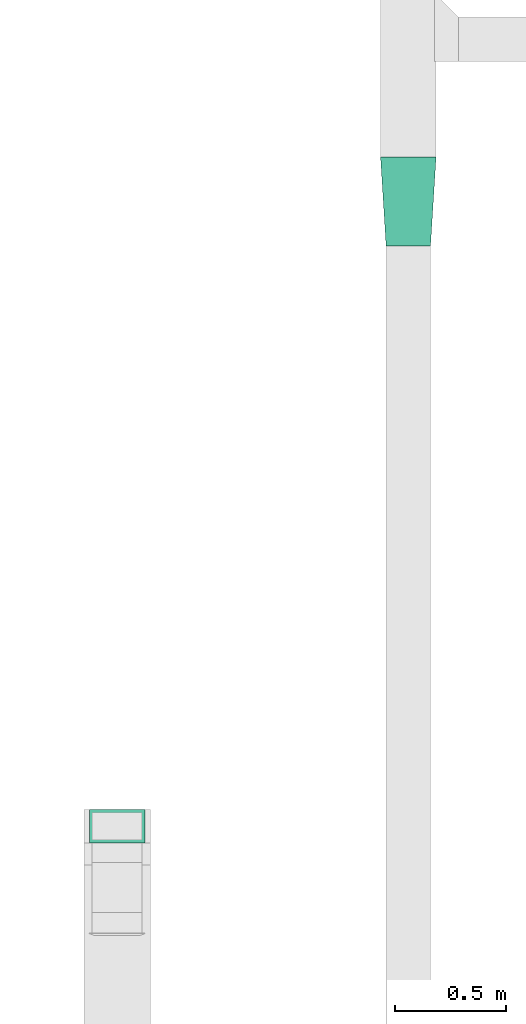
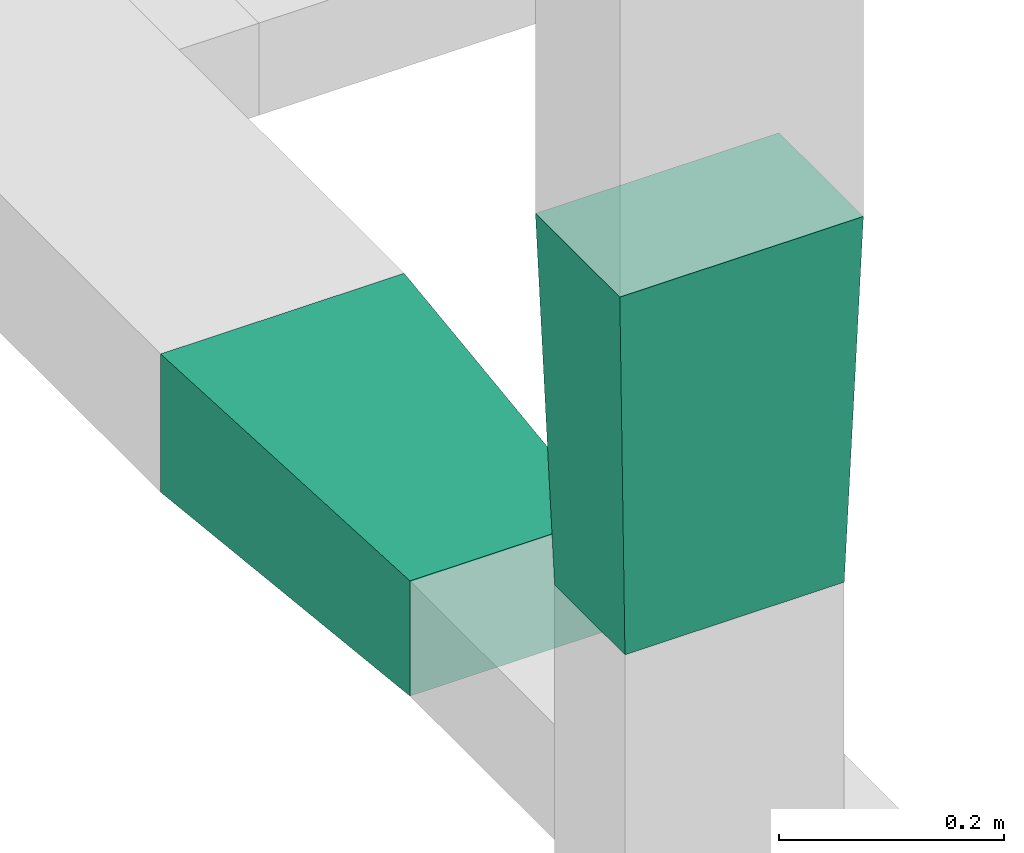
# One storey, part 16 of 22: 2 flow fittings.
"""IFC2X3 building model written with IfcOpenShell, lengths in millimetres."""

import ifcopenshell
import ifcopenshell.guid

model = None  # the IFC model being written
_history = None  # IfcOwnerHistory: only IFC2X3 demands one
_inside = {}  # id of a spatial element -> (the spatial element, [elements in it])
_under = {}  # id of a project, library or spatial element -> (it, [spatial elements below it])
_declared = {}  # id of a project -> (the project, [libraries it declares])
_typed = {}  # id of a type object -> (the type object, [elements of that type])
_made_of = {}  # id of a material, layer set ... -> (it, [elements and type objects made of it])


def new_model(schema):
    """Start an empty IFC model of exactly this schema.

    Asked for "IFC4X3", IfcOpenShell would pick the latest addendum, in which some entities
    have other attributes; the version numbers below select the first issue.
    IFC2X3 requires an IfcOwnerHistory on every rooted entity: one is made here for all.
    """
    global model, _history
    if schema == "IFC4X3":
        model = ifcopenshell.file(schema_version=(4, 3, 0, 0))
    else:
        model = ifcopenshell.file(schema=schema)
    _inside.clear()
    _under.clear()
    _declared.clear()
    _typed.clear()
    _made_of.clear()
    _history = None
    if model.schema == "IFC2X3":
        org = make("IfcOrganization", Name="unknown")
        user = make(
            "IfcPersonAndOrganization",
            ThePerson=make("IfcPerson", FamilyName="unknown"),
            TheOrganization=org,
        )
        app = make(
            "IfcApplication",
            ApplicationDeveloper=org,
            Version="unknown",
            ApplicationFullName="unknown",
            ApplicationIdentifier="unknown",
        )
        _history = make(
            "IfcOwnerHistory",
            OwningUser=user,
            OwningApplication=app,
            ChangeAction="ADDED",
            CreationDate=0,
        )
    return model


def make(cls, **values):
    """One entity of the class cls with the attributes given. An attribute that is None is left unset."""
    return model.create_entity(
        cls, **{name: value for name, value in values.items() if value is not None}
    )


def entity(cls, *values):
    """Any entity or typed value of the class cls, its attributes in the order of the schema. None: left unset."""
    e = model.create_entity(cls)
    for i, value in enumerate(values):
        if value is not None:
            e[i] = value
    return e


def rooted(cls, **values):
    """An entity with a GlobalId (a new one), such as an element, a storey or a relation."""
    return make(cls, GlobalId=ifcopenshell.guid.new(), OwnerHistory=_history, **values)


def si_unit(unit_type, name, prefix=None):
    """IfcSIUnit, for example si_unit("LENGTHUNIT", "METRE", prefix="MILLI")."""
    return make("IfcSIUnit", UnitType=unit_type, Prefix=prefix, Name=name)


def converted_unit(unit_type, name, factor, base, dimensions=None, offset=None):
    """IfcConversionBasedUnit, such as the inch: factor (a typed value) times the base unit."""
    return make(
        "IfcConversionBasedUnit"
        if offset is None
        else "IfcConversionBasedUnitWithOffset",
        ConversionOffset=offset,
        Dimensions=None
        if dimensions is None
        else entity("IfcDimensionalExponents", *dimensions),
        UnitType=unit_type,
        Name=name,
        ConversionFactor=make(
            "IfcMeasureWithUnit", ValueComponent=factor, UnitComponent=base
        ),
    )


def derived_unit(unit_type, elements):
    """IfcDerivedUnit: a product of units, each with its exponent."""
    return make(
        "IfcDerivedUnit",
        Elements=[
            make("IfcDerivedUnitElement", Unit=unit, Exponent=power)
            for unit, power in elements
        ],
        UnitType=unit_type,
    )


def assignment(units):
    """IfcUnitAssignment: the units of a project."""
    return None if units is None else make("IfcUnitAssignment", Units=units)


def point(xyz):
    """IfcCartesianPoint."""
    return None if xyz is None else make("IfcCartesianPoint", Coordinates=xyz)


def direction(xyz):
    """IfcDirection."""
    return None if xyz is None else make("IfcDirection", DirectionRatios=xyz)


def frame(location, z_axis=None, x_axis=None):
    """IfcAxis2Placement3D, a coordinate frame: its origin and axes. An axis left out is left unset."""
    return make(
        "IfcAxis2Placement3D",
        Location=point(location),
        Axis=direction(z_axis),
        RefDirection=direction(x_axis),
    )


def origin():
    """The frame at (0, 0, 0) with its axes left unset."""
    return frame((0.0, 0.0, 0.0))


def place(relative_to, where):
    """IfcLocalPlacement: puts the frame where relative to a parent placement (None: the world)."""
    return make(
        "IfcLocalPlacement", PlacementRelTo=relative_to, RelativePlacement=where
    )


def context(
    kind, dimensions, precision=None, world=None, true_north=None, identifier=None
):
    """IfcGeometricRepresentationContext, for example the 3D "Model" context."""
    return make(
        "IfcGeometricRepresentationContext",
        ContextIdentifier=identifier,
        ContextType=kind,
        CoordinateSpaceDimension=dimensions,
        Precision=precision,
        WorldCoordinateSystem=world,
        TrueNorth=true_north,
    )


def subcontext(parent, identifier, kind, view, scale=None):
    """IfcGeometricRepresentationSubContext, for example "Body" below "Model"."""
    return make(
        "IfcGeometricRepresentationSubContext",
        ContextIdentifier=identifier,
        ContextType=kind,
        ParentContext=parent,
        TargetScale=scale,
        TargetView=view,
    )


def project(units=None, contexts=None):
    """IfcProject with its units and contexts."""
    return rooted(
        "IfcProject",
        Name="project",
        RepresentationContexts=contexts,
        UnitsInContext=assignment(units),
    )


def spatial(cls, under=None, at=None, **own):
    """A site, building, storey or space (cls), placed at a placement, below another one or the project."""
    s = rooted(cls, ObjectPlacement=at, **own)
    if under is not None:
        _under.setdefault(under.id(), (under, []))[1].append(s)
    return s


def faces_of(points, faces, orient=None, outer=None):
    """IfcFace entities. A face is a list of loops; a loop is a list of indices into points, from 0.

    orient and outer hold one flag for each loop. By default every Orientation is true, the
    first loop of a face is its IfcFaceOuterBound and the others are IfcFaceBound.
    """
    made = []
    for i, loops in enumerate(faces):
        bounds = []
        for j, loop in enumerate(loops):
            is_outer = j == 0 if outer is None else outer[i][j]
            bounds.append(
                make(
                    "IfcFaceOuterBound" if is_outer else "IfcFaceBound",
                    Bound=make("IfcPolyLoop", Polygon=[points[k] for k in loop]),
                    Orientation=True if orient is None else orient[i][j],
                )
            )
        made.append(make("IfcFace", Bounds=bounds))
    return made


def faceted_brep(points, faces, orient=None, outer=None, voids=None):
    """IfcFacetedBrep: a solid bounded by flat faces; with voids (closed shells), ...WithVoids."""
    shared = [point(p) for p in points]
    hull = make("IfcClosedShell", CfsFaces=faces_of(shared, faces, orient, outer))
    if voids is None:
        return make("IfcFacetedBrep", Outer=hull)
    return make(
        "IfcFacetedBrepWithVoids",
        Outer=hull,
        Voids=[
            make(cls, CfsFaces=faces_of(shared, fs, o, b)) for cls, fs, o, b in voids
        ],
    )


def shape(context_of_items, identifier, shape_type, items):
    """IfcShapeRepresentation: the items that make up one representation, for example the "Body"."""
    return make(
        "IfcShapeRepresentation",
        ContextOfItems=context_of_items,
        RepresentationIdentifier=identifier,
        RepresentationType=shape_type,
        Items=items,
    )


def source(mapping_origin, context_of_items, identifier, shape_type, items):
    """IfcRepresentationMap: a shape defined once, which mapped items show again and again."""
    return make(
        "IfcRepresentationMap",
        MappingOrigin=mapping_origin,
        MappedRepresentation=shape(context_of_items, identifier, shape_type, items),
    )


def transform(
    local_origin,
    x_axis=None,
    y_axis=None,
    z_axis=None,
    scale=None,
    scale2=None,
    scale3=None,
    uniform=True,
):
    """IfcCartesianTransformationOperator3D, or its non-uniform kind. x_axis, y_axis, z_axis: its Axis1, 2, 3."""
    if uniform:
        return make(
            "IfcCartesianTransformationOperator3D",
            Axis1=direction(x_axis),
            Axis2=direction(y_axis),
            LocalOrigin=point(local_origin),
            Scale=scale,
            Axis3=direction(z_axis),
        )
    return make(
        "IfcCartesianTransformationOperator3DnonUniform",
        Axis1=direction(x_axis),
        Axis2=direction(y_axis),
        LocalOrigin=point(local_origin),
        Scale=scale,
        Axis3=direction(z_axis),
        Scale2=scale2,
        Scale3=scale3,
    )


def mapped(mapping_source, mapping_target):
    """IfcMappedItem: shows the shape of a source again, moved by a transform."""
    return make(
        "IfcMappedItem", MappingSource=mapping_source, MappingTarget=mapping_target
    )


def material(Name=None, Category=None):
    """IfcMaterial."""
    return make("IfcMaterial", Name=Name, Category=Category)


def made_of(thing, what):
    """Note that an element or type object is made of a material, layer set ...; save() writes the relation."""
    if what is not None:
        _made_of.setdefault(what.id(), (what, []))[1].append(thing)
    return thing


def type_object(cls, material=None, **own):
    """A type object (cls), such as IfcWallType, which elements share."""
    return made_of(rooted(cls, **own), material)


def type_shapes(of_type, sources):
    """Give a type object the sources (RepresentationMaps) that its elements show as mapped items."""
    of_type.RepresentationMaps = sources


def element(
    cls,
    number,
    at=None,
    inside=None,
    cuts=None,
    type_object=None,
    material=None,
    context=None,
    identifier="Body",
    shape_type=None,
    held_by="IfcProductDefinitionShape",
    body=None,
    shapes=None,
    **own,
):
    """One element of the class cls, such as IfcWall. Its Tag is "e" and its number.

    at: its placement. inside: the storey or other place that contains it. cuts: it is an
    opening in that element (IfcRelVoidsElement). A single representation is given by context,
    identifier, shape_type and body (its items); several are given by shapes. held_by: the class
    of the entity that holds the representations. save() writes the other relations.
    """
    e = rooted(cls, Tag="e%d" % number, ObjectPlacement=at, **own)
    if body is not None:
        shapes = [shape(context, identifier, shape_type, body)]
    if shapes is not None:
        e.Representation = make(held_by, Representations=shapes)
    if inside is not None:
        _inside.setdefault(inside.id(), (inside, []))[1].append(e)
    if cuts is not None:
        rooted(
            "IfcRelVoidsElement", RelatingBuildingElement=cuts, RelatedOpeningElement=e
        )
    if type_object is not None:
        _typed.setdefault(type_object.id(), (type_object, []))[1].append(e)
    return made_of(e, material)


def aggregate(whole, parts):
    """IfcRelAggregates: a whole, such as a stair, and the parts it consists of."""
    return rooted("IfcRelAggregates", RelatingObject=whole, RelatedObjects=parts)


def save(model, path):
    """Write the relations noted so far, then the file.

    IfcRelAggregates (storeys below a building ...), IfcRelContainedInSpatialStructure (elements
    in a storey), IfcRelDefinesByType, IfcRelAssociatesMaterial and IfcRelDeclares: one each for
    every whole, place, type object, material and project.
    """
    for whole, parts in _under.values():
        aggregate(whole, parts)
    for where, things in _inside.values():
        rooted(
            "IfcRelContainedInSpatialStructure",
            RelatedElements=things,
            RelatingStructure=where,
        )
    for kind, things in _typed.values():
        rooted("IfcRelDefinesByType", RelatedObjects=things, RelatingType=kind)
    for what, things in _made_of.values():
        rooted("IfcRelAssociatesMaterial", RelatedObjects=things, RelatingMaterial=what)
    for by, libraries in _declared.values():
        rooted("IfcRelDeclares", RelatingContext=by, RelatedDefinitions=libraries)
    model.write(path)


model = new_model("IFC2X3")

# Units and contexts
model_context = context("Model", 3, precision=0.01, world=origin(), true_north=direction((6.123233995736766e-17, 1.0)))
body_context = subcontext(model_context, "Body", "Model", "MODEL_VIEW")
ifc_project = project(units=[si_unit("LENGTHUNIT", "METRE", prefix="MILLI"), converted_unit("PLANEANGLEUNIT", "DEGREE", entity("IfcPlaneAngleMeasure", 0.017453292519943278), si_unit("PLANEANGLEUNIT", "RADIAN"), dimensions=[0, 0, 0, 0, 0, 0, 0]), si_unit("AREAUNIT", "SQUARE_METRE"), derived_unit("THERMALTRANSMITTANCEUNIT", [(si_unit("MASSUNIT", "GRAM", prefix="KILO"), 1), (si_unit("THERMODYNAMICTEMPERATUREUNIT", "KELVIN"), -1), (si_unit("TIMEUNIT", "SECOND"), -3)])], contexts=[model_context])

# Site, building, storey
site_placement = place(None, origin())
site = spatial("IfcSite", under=ifc_project, at=site_placement, Name="Default", CompositionType="ELEMENT")
building_placement = place(site_placement, origin())
building = spatial("IfcBuilding", under=site, at=building_placement, Name="Praça Pedro II, 1301 - Centro (Sul), Teresina - PI, 64001-100", CompositionType="ELEMENT")
storey_placement = place(building_placement, frame((0.0, 0.0, 320.0)))
storey = spatial("IfcBuildingStorey", under=building, at=storey_placement, Name="TÉRREO +0.32m", CompositionType="ELEMENT", Elevation=319.99999999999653)

# Flow fittings
ifc_material = material(Name="<Unnamed>")
duct_fitting_type_1 = type_object("IfcDuctFittingType", Name="M_Rectangular Transition - L:400 mm (L)", PredefinedType="NOTDEFINED", material=ifc_material)
shared_shape_1 = source(origin(), body_context, "Body", "Brep", [
    faceted_brep([(400.0, -112.50000000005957, 62.49999999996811), (400.0, -112.50000000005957, -62.500000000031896), (400.0, 112.49999999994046, -62.500000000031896), (400.0, 112.49999999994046, 62.49999999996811), (0.0, -125.0, 75.0), (0.0, 125.0, 75.0), (0.0, 125.0, -75.0), (0.0, -125.0, -75.0)], [[[0, 1, 2, 3]], [[4, 5, 6, 7]], [[4, 7, 1, 0]], [[7, 6, 2, 1]], [[6, 5, 3, 2]], [[5, 4, 0, 3]]]),
])
type_shapes(duct_fitting_type_1, [shared_shape_1])
flow_fitting_1_placement = place(storey_placement, frame((34186.88553093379, -64568.116407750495, 4692.515883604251), z_axis=(0.0, 1.0, 0.0), x_axis=(0.0, 0.0, -1.0)))
element("IfcFlowFitting", 1, at=flow_fitting_1_placement, inside=storey, type_object=duct_fitting_type_1, material=ifc_material, Name="M_Rectangular Transition - L:400 mm (L)", ObjectType="M_Rectangular Transition - L:400 mm (L)", context=body_context, shape_type="MappedRepresentation", body=[
    mapped(shared_shape_1, transform((0.0, 0.0, 0.0), scale=1.0)),
])
duct_fitting_type_2 = type_object("IfcDuctFittingType", Name="M_Rectangular Transition - L:400 mm (L)", PredefinedType="NOTDEFINED", material=ifc_material)
shared_shape_2 = source(origin(), body_context, "Body", "Brep", [
    faceted_brep([(400.0, -125.0, 75.0), (400.0, -125.0, -75.0), (400.0, 125.0, -75.0), (400.0, 125.0, 75.0), (0.0, -100.0, 62.49999999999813), (0.0, 100.0, 62.49999999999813), (0.0, 100.0, -62.500000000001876), (0.0, -100.0, -62.500000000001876)], [[[0, 1, 2, 3]], [[4, 5, 6, 7]], [[4, 7, 1, 0]], [[7, 6, 2, 1]], [[6, 5, 3, 2]], [[5, 4, 0, 3]]]),
])
type_shapes(duct_fitting_type_2, [shared_shape_2])
flow_fitting_2_placement = place(storey_placement, frame((35497.8889736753, -61956.06289182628, 2225.0), z_axis=(0.0, 0.0, 1.0), x_axis=(0.0, 1.0, 0.0)))
element("IfcFlowFitting", 2, at=flow_fitting_2_placement, inside=storey, type_object=duct_fitting_type_2, material=ifc_material, Name="M_Rectangular Transition - L:400 mm (L)", ObjectType="M_Rectangular Transition - L:400 mm (L)", context=body_context, shape_type="MappedRepresentation", body=[
    mapped(shared_shape_2, transform((0.0, 0.0, 0.0), scale=1.0)),
])

save(model, "model.ifc")
